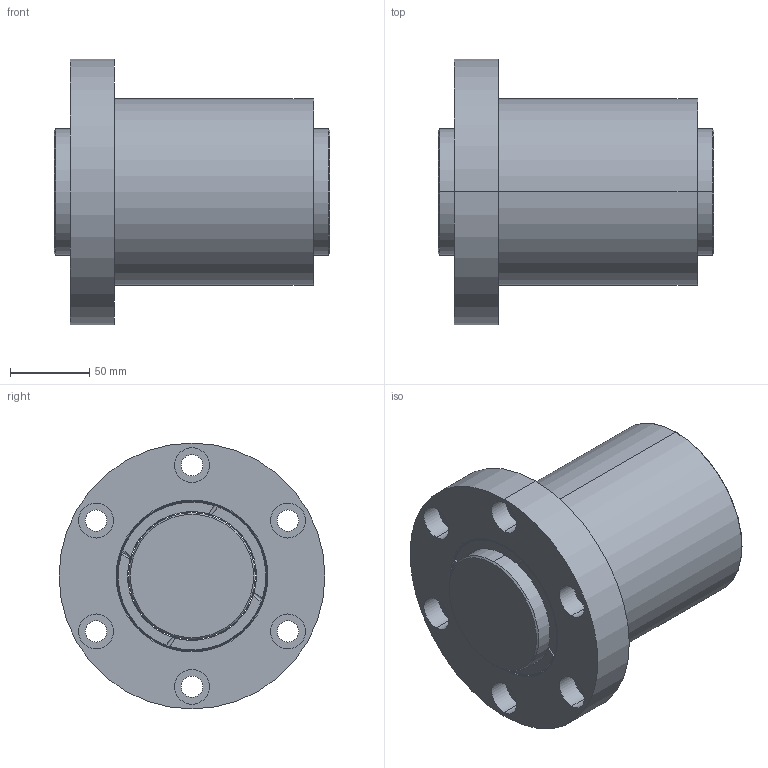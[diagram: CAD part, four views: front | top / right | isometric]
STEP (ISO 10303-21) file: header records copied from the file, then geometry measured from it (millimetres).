
FILE_DESCRIPTION (( 'STEP AP203' ), '1' );
FILE_NAME ('SFZR08020T4N-C.STEP', '2020-06-18T01:06:02', ( '' ), ( '' ), 'SwSTEP 2.0', 'SolidWorks 2013', '' );
FILE_SCHEMA (( 'CONFIG_CONTROL_DESIGN' ));
Length unit declared in the file: millimetre
Products named in the file (1): SFZR08020T4N-C
Bounding box: 174 x 168 x 168 mm (x, y, z)
Volume: 1958677 mm3; surface area: 201544.3 mm2
Topology: 2 solids, 4 shells, 122 faces, 290 edges, 186 vertices
Faces by surface type: cylinder 68, plane 26, torus 24, cone 4
Entity records: 4043 total; most frequent: CARTESIAN_POINT 1033, DIRECTION 662, ORIENTED_EDGE 580, AXIS2_PLACEMENT_3D 295, EDGE_CURVE 290, VERTEX_POINT 186, CIRCLE 172, EDGE_LOOP 152
